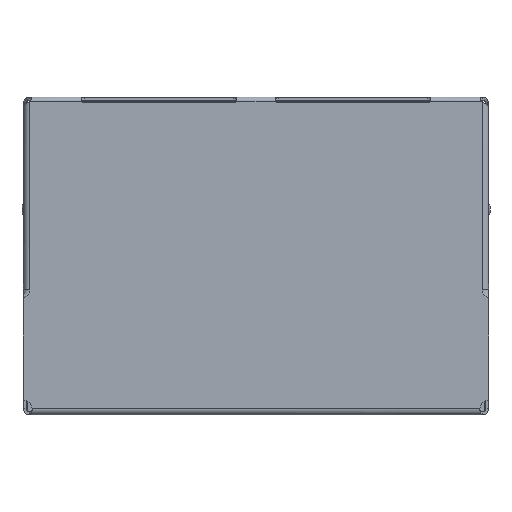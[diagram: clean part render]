
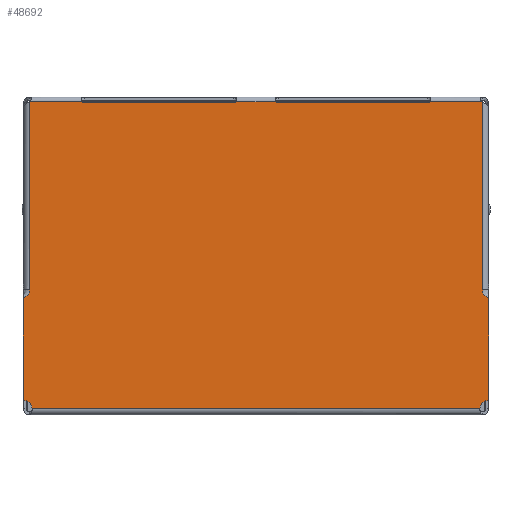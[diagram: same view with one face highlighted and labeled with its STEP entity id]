
A CAD part, front view. The second image highlights one B-rep face of the part: STEP entity #48692.
In plain terms, the highlighted planar face has unit normal (0, 1, 0).
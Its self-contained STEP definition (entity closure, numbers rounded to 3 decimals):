
#42487=DIRECTION('',(1.,0.,0.));
#42488=VECTOR('',#42487,29.968);
#42489=CARTESIAN_POINT('',(13.621,-0.25,-10.3));
#42490=LINE('',#42489,#42488);
#42498=CARTESIAN_POINT('',(13.621,-0.25,-10.3));
#42504=CARTESIAN_POINT('',(44.165,-0.25,-10.3));
#42505=DIRECTION('',(0.,1.,0.));
#42506=DIRECTION('',(-1.,0.,0.));
#42507=AXIS2_PLACEMENT_3D('',#42504,#42505,#42506);
#42509=DIRECTION('',(-0.707,0.,0.707));
#42510=VECTOR('',#42509,0.566);
#42511=CARTESIAN_POINT('',(44.165,-0.25,
-2.93));
#42512=LINE('',#42511,#42510);
#42513=CARTESIAN_POINT('',(40.105,-0.25,10.399));
#42514=DIRECTION('',(0.,1.,0.));
#42515=DIRECTION('',(0.766,0.,-0.643));
#42516=AXIS2_PLACEMENT_3D('',#42513,#42514,#42515);
#42518=CARTESIAN_POINT('',(30.105,-0.25,10.399));
#42519=DIRECTION('',(0.,1.,0.));
#42520=DIRECTION('',(0.,0.,-1.));
#42521=AXIS2_PLACEMENT_3D('',#42518,#42519,#42520);
#42523=CARTESIAN_POINT('',(27.105,-0.25,10.399));
#42524=DIRECTION('',(0.,1.,0.));
#42525=DIRECTION('',(0.766,0.,-0.643));
#42526=AXIS2_PLACEMENT_3D('',#42523,#42524,#42525);
#42528=CARTESIAN_POINT('',(17.105,-0.25,10.399));
#42529=DIRECTION('',(0.,1.,0.));
#42530=DIRECTION('',(0.,0.,-1.));
#42531=AXIS2_PLACEMENT_3D('',#42528,#42529,#42530);
#42533=DIRECTION('',(-0.707,0.,-0.707));
#42534=VECTOR('',#42533,0.566);
#42535=CARTESIAN_POINT('',(13.445,-0.25,-2.53));
#42536=LINE('',#42535,#42534);
#42537=CARTESIAN_POINT('',(13.045,-0.25,-10.3));
#42538=DIRECTION('',(0.,1.,0.));
#42539=DIRECTION('',(0.,0.,1.));
#42540=AXIS2_PLACEMENT_3D('',#42537,#42538,#42539);
#42588=DIRECTION('',(0.,0.,1.));
#42589=VECTOR('',#42588,6.794);
#42590=CARTESIAN_POINT('',(13.045,-0.25,-9.724));
#42591=LINE('',#42590,#42589);
#42610=DIRECTION('',(0.,0.,1.));
#42611=VECTOR('',#42610,0.2);
#42612=CARTESIAN_POINT('',(13.445,-0.25,-2.53));
#42613=LINE('',#42612,#42611);
#42614=DIRECTION('',(0.,0.,-1.));
#42615=VECTOR('',#42614,12.6);
#42616=CARTESIAN_POINT('',(13.445,-0.25,10.27));
#42617=LINE('',#42616,#42615);
#43006=DIRECTION('',(-1.,0.,0.));
#43007=VECTOR('',#43006,3.507);
#43008=CARTESIAN_POINT('',(16.952,-0.25,10.27));
#43009=LINE('',#43008,#43007);
#43378=DIRECTION('',(-1.,0.,0.));
#43379=VECTOR('',#43378,3.507);
#43380=CARTESIAN_POINT('',(43.765,-0.25,10.27));
#43381=LINE('',#43380,#43379);
#43393=DIRECTION('',(0.,0.,1.));
#43394=VECTOR('',#43393,12.6);
#43395=CARTESIAN_POINT('',(43.765,-0.25,-2.33));
#43396=LINE('',#43395,#43394);
#43423=DIRECTION('',(0.,0.,1.));
#43424=VECTOR('',#43423,0.2);
#43425=CARTESIAN_POINT('',(43.765,-0.25,-2.53));
#43426=LINE('',#43425,#43424);
#43445=DIRECTION('',(0.,0.,-1.));
#43446=VECTOR('',#43445,6.794);
#43447=CARTESIAN_POINT('',(44.165,-0.25,
-2.93));
#43448=LINE('',#43447,#43446);
#43552=DIRECTION('',(-1.,0.,0.));
#43553=VECTOR('',#43552,10.);
#43554=CARTESIAN_POINT('',(40.105,-0.25,10.199));
#43555=LINE('',#43554,#43553);
#43569=DIRECTION('',(-1.,0.,0.));
#43570=VECTOR('',#43569,2.694);
#43571=CARTESIAN_POINT('',(29.952,-0.25,10.27));
#43572=LINE('',#43571,#43570);
#43594=DIRECTION('',(-1.,0.,0.));
#43595=VECTOR('',#43594,10.);
#43596=CARTESIAN_POINT('',(27.105,-0.25,10.199));
#43597=LINE('',#43596,#43595);
#44561=CARTESIAN_POINT('',(43.589,-0.25,-10.3));
#44562=VERTEX_POINT('',#44561);
#44563=VERTEX_POINT('',#42498);
#44566=CARTESIAN_POINT('',(13.045,-0.25,-9.724));
#44567=VERTEX_POINT('',#44566);
#44598=CARTESIAN_POINT('',(44.165,-0.25,-9.724));
#44599=VERTEX_POINT('',#44598);
#44600=CARTESIAN_POINT('',(13.045,-0.25,
-2.93));
#44601=VERTEX_POINT('',#44600);
#44602=CARTESIAN_POINT('',(13.445,-0.25,-2.53));
#44603=VERTEX_POINT('',#44602);
#44604=CARTESIAN_POINT('',(13.445,-0.25,-2.33));
#44605=VERTEX_POINT('',#44604);
#44606=CARTESIAN_POINT('',(13.445,-0.25,10.27));
#44607=VERTEX_POINT('',#44606);
#44608=CARTESIAN_POINT('',(16.952,-0.25,10.27));
#44609=VERTEX_POINT('',#44608);
#44610=CARTESIAN_POINT('',(17.105,-0.25,10.199));
#44611=VERTEX_POINT('',#44610);
#44612=CARTESIAN_POINT('',(27.105,-0.25,10.199));
#44613=VERTEX_POINT('',#44612);
#44614=CARTESIAN_POINT('',(27.258,-0.25,10.27));
#44615=VERTEX_POINT('',#44614);
#44616=CARTESIAN_POINT('',(29.952,-0.25,10.27));
#44617=VERTEX_POINT('',#44616);
#44618=CARTESIAN_POINT('',(30.105,-0.25,10.199));
#44619=VERTEX_POINT('',#44618);
#44620=CARTESIAN_POINT('',(40.105,-0.25,10.199));
#44621=VERTEX_POINT('',#44620);
#44622=CARTESIAN_POINT('',(40.258,-0.25,10.27));
#44623=VERTEX_POINT('',#44622);
#44624=CARTESIAN_POINT('',(43.765,-0.25,10.27));
#44625=VERTEX_POINT('',#44624);
#44626=CARTESIAN_POINT('',(43.765,-0.25,-2.33));
#44627=VERTEX_POINT('',#44626);
#44628=CARTESIAN_POINT('',(43.765,-0.25,-2.53));
#44629=VERTEX_POINT('',#44628);
#44630=CARTESIAN_POINT('',(44.165,-0.25,
-2.93));
#44631=VERTEX_POINT('',#44630);
#48646=CARTESIAN_POINT('',(28.605,-0.25,-0.015));
#48647=DIRECTION('',(0.,1.,0.));
#48648=DIRECTION('',(1.,0.,0.));
#48649=AXIS2_PLACEMENT_3D('',#48646,#48647,#48648);
#48650=PLANE('',#48649);
#48652=ORIENTED_EDGE('',*,*,#48651,.T.);
#48654=ORIENTED_EDGE('',*,*,#48653,.F.);
#48656=ORIENTED_EDGE('',*,*,#48655,.T.);
#48658=ORIENTED_EDGE('',*,*,#48657,.T.);
#48660=ORIENTED_EDGE('',*,*,#48659,.T.);
#48662=ORIENTED_EDGE('',*,*,#48661,.T.);
#48664=ORIENTED_EDGE('',*,*,#48663,.T.);
#48666=ORIENTED_EDGE('',*,*,#48665,.T.);
#48668=ORIENTED_EDGE('',*,*,#48667,.T.);
#48670=ORIENTED_EDGE('',*,*,#48669,.T.);
#48672=ORIENTED_EDGE('',*,*,#48671,.T.);
#48674=ORIENTED_EDGE('',*,*,#48673,.T.);
#48676=ORIENTED_EDGE('',*,*,#48675,.T.);
#48678=ORIENTED_EDGE('',*,*,#48677,.T.);
#48680=ORIENTED_EDGE('',*,*,#48679,.T.);
#48682=ORIENTED_EDGE('',*,*,#48681,.F.);
#48684=ORIENTED_EDGE('',*,*,#48683,.T.);
#48686=ORIENTED_EDGE('',*,*,#48685,.F.);
#48688=ORIENTED_EDGE('',*,*,#48687,.T.);
#48689=ORIENTED_EDGE('',*,*,#48639,.T.);
#48690=EDGE_LOOP('',(#48652,#48654,#48656,#48658,#48660,#48662,#48664,#48666,
#48668,#48670,#48672,#48674,#48676,#48678,#48680,#48682,#48684,#48686,#48688,
#48689));
#48691=FACE_OUTER_BOUND('',#48690,.F.);
#48692=ADVANCED_FACE('',(#48691),#48650,.T.);
#42508=CIRCLE('',#42507,0.576);
#42517=CIRCLE('',#42516,0.2);
#42522=CIRCLE('',#42521,0.2);
#42527=CIRCLE('',#42526,0.2);
#42532=CIRCLE('',#42531,0.2);
#42541=CIRCLE('',#42540,0.576);
#48639=EDGE_CURVE('',#44563,#44562,#42490,.T.);
#48651=EDGE_CURVE('',#44562,#44599,#42508,.T.);
#48653=EDGE_CURVE('',#44631,#44599,#43448,.T.);
#48655=EDGE_CURVE('',#44631,#44629,#42512,.T.);
#48657=EDGE_CURVE('',#44629,#44627,#43426,.T.);
#48659=EDGE_CURVE('',#44627,#44625,#43396,.T.);
#48661=EDGE_CURVE('',#44625,#44623,#43381,.T.);
#48663=EDGE_CURVE('',#44623,#44621,#42517,.T.);
#48665=EDGE_CURVE('',#44621,#44619,#43555,.T.);
#48667=EDGE_CURVE('',#44619,#44617,#42522,.T.);
#48669=EDGE_CURVE('',#44617,#44615,#43572,.T.);
#48671=EDGE_CURVE('',#44615,#44613,#42527,.T.);
#48673=EDGE_CURVE('',#44613,#44611,#43597,.T.);
#48675=EDGE_CURVE('',#44611,#44609,#42532,.T.);
#48677=EDGE_CURVE('',#44609,#44607,#43009,.T.);
#48679=EDGE_CURVE('',#44607,#44605,#42617,.T.);
#48681=EDGE_CURVE('',#44603,#44605,#42613,.T.);
#48683=EDGE_CURVE('',#44603,#44601,#42536,.T.);
#48685=EDGE_CURVE('',#44567,#44601,#42591,.T.);
#48687=EDGE_CURVE('',#44567,#44563,#42541,.T.);
